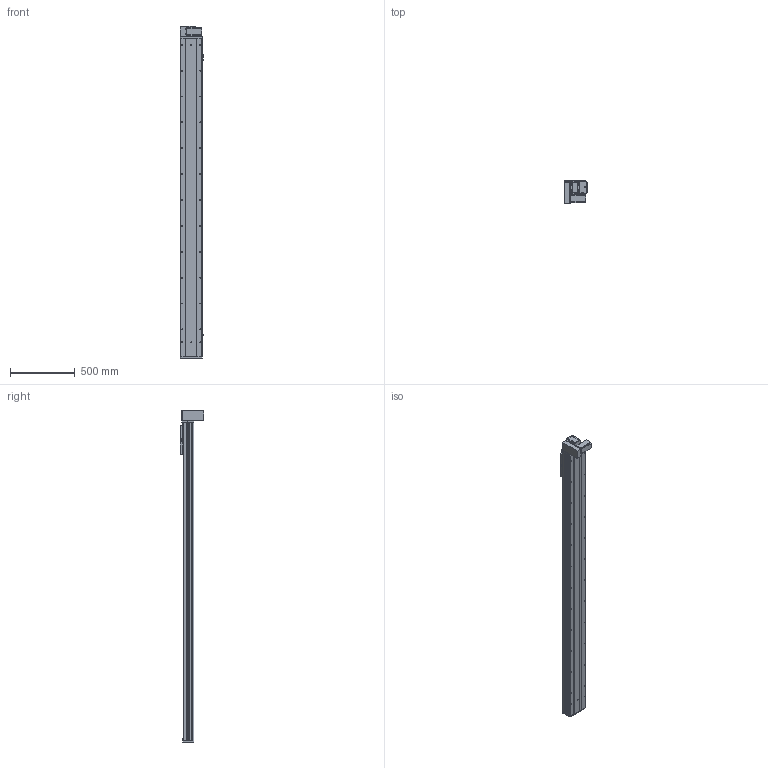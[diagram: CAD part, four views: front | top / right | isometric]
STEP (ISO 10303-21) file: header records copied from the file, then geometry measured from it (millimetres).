
FILE_DESCRIPTION (( 'STEP AP203' ), '1' );
FILE_NAME ('Y170CB-D105-S2150-BM-P400W.STEP', '2020-02-20T07:33:35', ( '微软用户' ), ( '微软中国' ), 'SwSTEP 2.0', 'SolidWorks 2017', '' );
FILE_SCHEMA (( 'CONFIG_CONTROL_DESIGN' ));
Length unit declared in the file: millimetre
Products named in the file (18): 0C--雄赽釱俋欶-170; 0B-萇儂楊擘啣; 70CB-詩湍--; san松下电机400不带刹车----; Y100-135俋离換覜ん--; 70CB-掛极-; Y170CB-陔俋离換覜結え---; --70CB --喘謫眊楊擘啣-; Y1埴倛裔; 70CB-耜裔啣-; 17B-耜蚾蟀諉啣----; 70C--詩湍揤踡え-; 00B-俋欶BM--163; 70CB--耜裔; 70B喘謫眊----; 70C-雄赽釱-奻-; B-源倛裔啣; Y170CB-D105-S2150-BM-P400W
Assembly tree (21 placements, depth 2):
  Y170CB-D105-S2150-BM-P400W
    B-源倛裔啣
    0B-萇儂楊擘啣
    san松下电机400不带刹车----
    70CB-掛极-
    --70CB --喘謫眊楊擘啣-
    70CB-耜裔啣-  x2
    70C--詩湍揤踡え-  x2
    70CB--耜裔
    70C-雄赽釱-奻-
    0C--雄赽釱俋欶-170
    70CB-詩湍--
    Y100-135俋离換覜ん--  x3
    Y170CB-陔俋离換覜結え---
    Y1埴倛裔
    17B-耜蚾蟀諉啣----
    00B-俋欶BM--163
    70B喘謫眊----
Bounding box: 183.5 x 184 x 2566 mm (x, y, z)
Volume: 11067179.8 mm3; surface area: 3992552.8 mm2
Topology: 21 solids, 21 shells, 1055 faces, 2837 edges, 1882 vertices
Faces by surface type: cylinder 569, plane 462, cone 24
Entity records: 33788 total; most frequent: CARTESIAN_POINT 6216, DIRECTION 5498, ORIENTED_EDGE 5156, EDGE_CURVE 2578, AXIS2_PLACEMENT_3D 2028, VERTEX_POINT 1712, VECTOR 1442, LINE 1442
